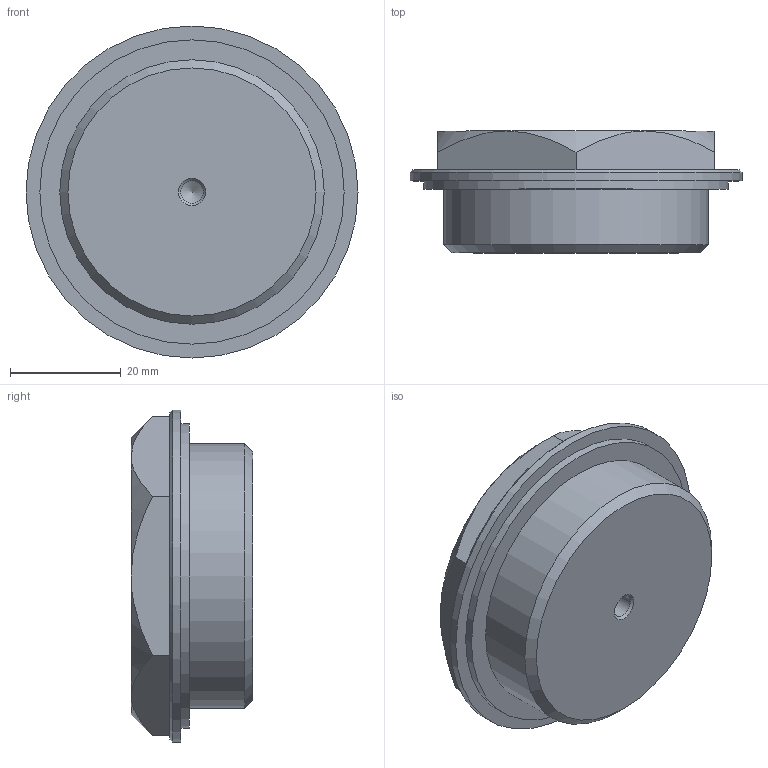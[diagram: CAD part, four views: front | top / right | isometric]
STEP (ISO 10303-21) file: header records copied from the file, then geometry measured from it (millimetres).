
FILE_DESCRIPTION( ( 'STEP AP203' ), '1' );
FILE_NAME( 'C:/Temp/Ganter_Step_05_03_2020/data/3_5/gn742/gn742_1/Threaded plug GN 742-60-G11_2-OSS-1.stp', '2020-03-12T13:39:19', ( 'License CC BY-ND 4.0' ), ( 'CADENAS' ), ' ', 'PARTsolutions', ' ' );
FILE_SCHEMA( ( 'CONFIG_CONTROL_DESIGN' ) );
Length unit declared in the file: millimetre
Products named in the file (1): _Threaded plug GN 742-60-G11/2-OSS-1
Bounding box: 60 x 22 x 60 mm (x, y, z)
Volume: 44359.4 mm3; surface area: 9115.6 mm2
Topology: 1 solids, 1 shells, 25 faces, 50 edges, 30 vertices
Faces by surface type: plane 11, cone 10, cylinder 4
Full cylindrical faces by diameter (mm): 4.134 x1, 47.803 x1, 55 x1, 60 x1
Entity records: 716 total; most frequent: CARTESIAN_POINT 197, DIRECTION 98, ORIENTED_EDGE 82, AXIS2_PLACEMENT_3D 43, EDGE_CURVE 41, EDGE_LOOP 36, VERTEX_POINT 30, FACE_OUTER_BOUND 29
